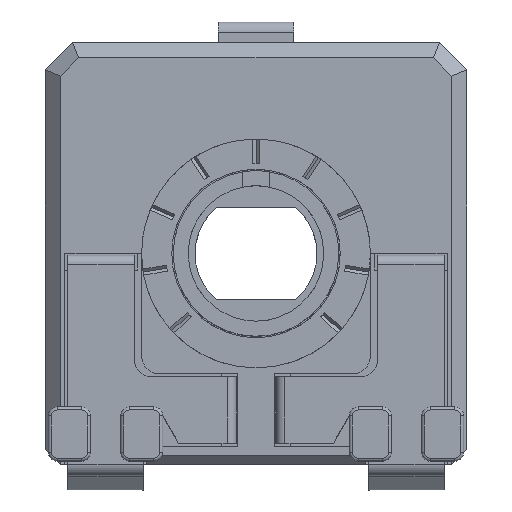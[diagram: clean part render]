
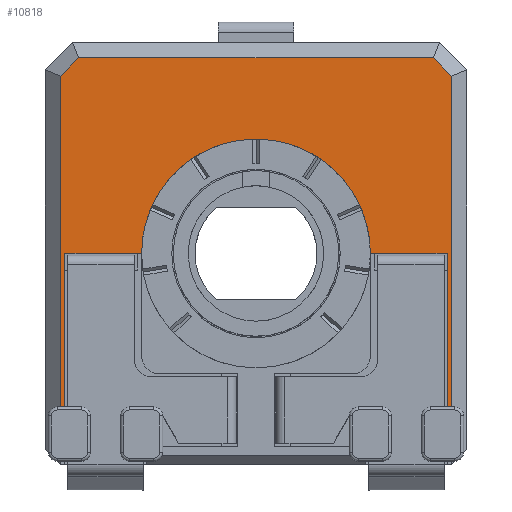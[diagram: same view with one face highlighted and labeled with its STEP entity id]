
A CAD part, top view. The second image highlights one B-rep face of the part: STEP entity #10818.
In plain terms, the highlighted planar face has unit normal (0, 0, 1).
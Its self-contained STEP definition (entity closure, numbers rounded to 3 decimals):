
#464=CIRCLE('',#11602,3.8);
#944=FACE_OUTER_BOUND('',#1501,.T.);
#1501=EDGE_LOOP('',(#9116,#9117,#9118,#9119,#9120,#9121,#9122,#9123,#9124,
#9125,#9126,#9127));
#1847=LINE('',#15316,#3070);
#1915=LINE('',#15569,#3138);
#2155=LINE('',#16312,#3378);
#2158=LINE('',#16317,#3381);
#2430=LINE('',#16969,#3653);
#2463=LINE('',#17096,#3686);
#2686=LINE('',#17645,#3909);
#2687=LINE('',#17648,#3910);
#2688=LINE('',#17649,#3911);
#2689=LINE('',#17652,#3912);
#2690=LINE('',#17653,#3913);
#3070=VECTOR('',#12337,10.);
#3138=VECTOR('',#12619,10.);
#3378=VECTOR('',#13145,10.);
#3381=VECTOR('',#13150,10.);
#3653=VECTOR('',#13572,10.);
#3686=VECTOR('',#13647,10.);
#3909=VECTOR('',#14168,10.);
#3910=VECTOR('',#14171,10.);
#3911=VECTOR('',#14172,10.);
#3912=VECTOR('',#14175,10.);
#3913=VECTOR('',#14176,10.);
#4234=VERTEX_POINT('',#15117);
#4293=VERTEX_POINT('',#15315);
#4370=VERTEX_POINT('',#15566);
#4371=VERTEX_POINT('',#15568);
#4418=VERTEX_POINT('',#15722);
#4419=VERTEX_POINT('',#15724);
#4574=VERTEX_POINT('',#16308);
#4575=VERTEX_POINT('',#16310);
#4784=VERTEX_POINT('',#16965);
#4810=VERTEX_POINT('',#17095);
#4941=VERTEX_POINT('',#17647);
#4942=VERTEX_POINT('',#17651);
#5372=EDGE_CURVE('',#4293,#4234,#1847,.T.);
#5498=EDGE_CURVE('',#4371,#4370,#1915,.T.);
#5804=EDGE_CURVE('',#4575,#4574,#2155,.T.);
#5807=EDGE_CURVE('',#4574,#4370,#2158,.T.);
#6100=EDGE_CURVE('',#4293,#4784,#2430,.T.);
#6145=EDGE_CURVE('',#4784,#4810,#2463,.T.);
#6395=EDGE_CURVE('',#4810,#4575,#2686,.T.);
#6396=EDGE_CURVE('',#4234,#4941,#2687,.T.);
#6397=EDGE_CURVE('',#4941,#4419,#2688,.T.);
#6398=EDGE_CURVE('',#4419,#4418,#464,.T.);
#6399=EDGE_CURVE('',#4418,#4942,#2689,.T.);
#6400=EDGE_CURVE('',#4942,#4371,#2690,.T.);
#9116=ORIENTED_EDGE('',*,*,#5372,.T.);
#9117=ORIENTED_EDGE('',*,*,#6396,.T.);
#9118=ORIENTED_EDGE('',*,*,#6397,.T.);
#9119=ORIENTED_EDGE('',*,*,#6398,.T.);
#9120=ORIENTED_EDGE('',*,*,#6399,.T.);
#9121=ORIENTED_EDGE('',*,*,#6400,.T.);
#9122=ORIENTED_EDGE('',*,*,#5498,.T.);
#9123=ORIENTED_EDGE('',*,*,#5807,.F.);
#9124=ORIENTED_EDGE('',*,*,#5804,.F.);
#9125=ORIENTED_EDGE('',*,*,#6395,.F.);
#9126=ORIENTED_EDGE('',*,*,#6145,.F.);
#9127=ORIENTED_EDGE('',*,*,#6100,.F.);
#10075=PLANE('',#11601);
#10818=ADVANCED_FACE('',(#944),#10075,.T.);
#11601=AXIS2_PLACEMENT_3D('',#17646,#14169,#14170);
#11602=AXIS2_PLACEMENT_3D('',#17650,#14173,#14174);
#12337=DIRECTION('',(1.,0.,0.));
#12619=DIRECTION('',(1.,0.,0.));
#13145=DIRECTION('',(0.707,-0.707,0.));
#13150=DIRECTION('',(0.,-1.,0.));
#13572=DIRECTION('',(0.,1.,0.));
#13647=DIRECTION('',(0.707,0.707,0.));
#14168=DIRECTION('',(1.,0.,0.));
#14169=DIRECTION('center_axis',(0.,0.,1.));
#14170=DIRECTION('ref_axis',(1.,0.,0.));
#14171=DIRECTION('',(0.,1.,0.));
#14172=DIRECTION('',(1.,0.,0.));
#14173=DIRECTION('center_axis',(0.,0.,-1.));
#14174=DIRECTION('ref_axis',(-1.,0.,0.));
#14175=DIRECTION('',(1.,0.,0.));
#14176=DIRECTION('',(0.,-1.,0.));
#15117=CARTESIAN_POINT('',(-13.817,-7.998,4.4));
#15315=CARTESIAN_POINT('',(-13.967,-7.998,4.4));
#15316=CARTESIAN_POINT('',(-10.217,-7.998,4.4));
#15566=CARTESIAN_POINT('',(-0.967,-7.998,4.4));
#15568=CARTESIAN_POINT('',(-1.117,-7.998,4.4));
#15569=CARTESIAN_POINT('',(-4.017,-7.998,4.4));
#15722=CARTESIAN_POINT('',(-3.667,-2.898,4.4));
#15724=CARTESIAN_POINT('',(-11.267,-2.898,4.4));
#16308=CARTESIAN_POINT('',(-0.967,2.994,4.4));
#16310=CARTESIAN_POINT('',(-1.574,3.602,4.4));
#16312=CARTESIAN_POINT('',(-1.271,3.298,4.4));
#16317=CARTESIAN_POINT('',(-0.967,0.602,4.4));
#16965=CARTESIAN_POINT('',(-13.967,2.994,4.4));
#16969=CARTESIAN_POINT('',(-13.967,-6.398,4.4));
#17095=CARTESIAN_POINT('',(-13.36,3.602,4.4));
#17096=CARTESIAN_POINT('',(-13.663,3.298,4.4));
#17645=CARTESIAN_POINT('',(-10.967,3.602,4.4));
#17646=CARTESIAN_POINT('Origin',(-7.467,-2.898,4.4));
#17647=CARTESIAN_POINT('',(-13.817,-2.898,4.4));
#17648=CARTESIAN_POINT('',(-13.817,-3.173,4.4));
#17649=CARTESIAN_POINT('',(-9.442,-2.898,4.4));
#17650=CARTESIAN_POINT('Origin',(-7.467,-2.898,4.4));
#17651=CARTESIAN_POINT('',(-1.117,-2.898,4.4));
#17652=CARTESIAN_POINT('',(-5.492,-2.898,4.4));
#17653=CARTESIAN_POINT('',(-1.117,-2.898,4.4));
